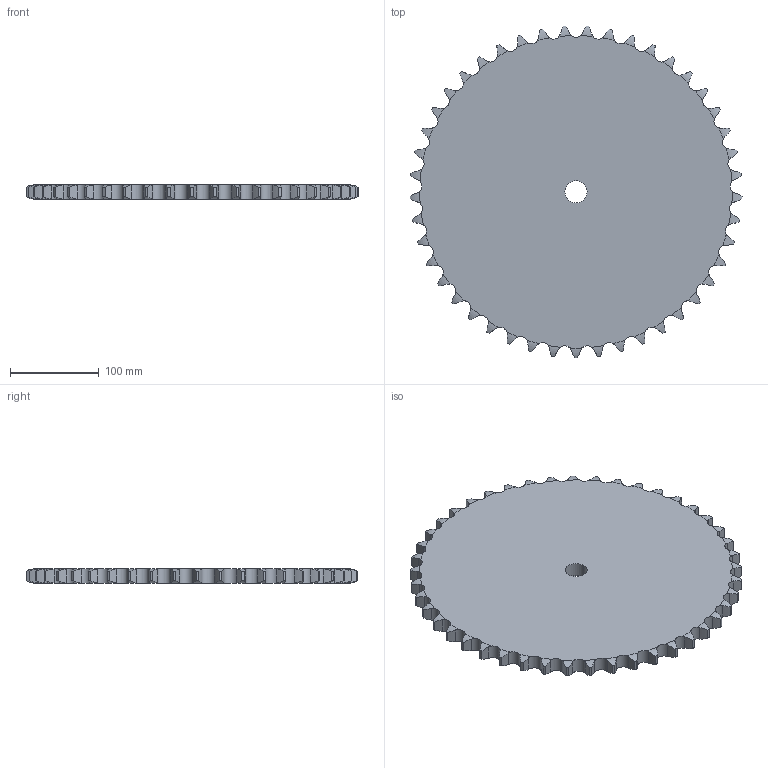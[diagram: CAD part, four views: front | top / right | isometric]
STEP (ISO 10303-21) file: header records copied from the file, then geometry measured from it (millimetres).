
FILE_DESCRIPTION((''),'2;1');
FILE_NAME('500-501-0045_PRT','2021-02-12T',('Brieden'),('Brieden'),'PRO/ENGINEER BY PARAMETRIC TECHNOLOGY CORPORATION, 2010160','PRO/ENGINEER BY PARAMETRIC TECHNOLOGY CORPORATION, 2010160','');
FILE_SCHEMA(('AUTOMOTIVE_DESIGN { 1 0 10303 214 1 1 1 1 }'));
Length unit declared in the file: millimetre
Products named in the file (1): 500-501-0045_PRT
Bounding box: 374.41 x 374.18 x 16.2 mm (x, y, z)
Volume: 1620629.6 mm3; surface area: 228551.1 mm2
Topology: 1 solids, 1 shells, 274 faces, 816 edges, 544 vertices
Faces by surface type: cylinder 182, torus 90, plane 2
Entity records: 13928 total; most frequent: CARTESIAN_POINT 4489, ORIENTED_EDGE 1632, DIRECTION 1278, PRESENTATION_STYLE_ASSIGNMENT 817, STYLED_ITEM 817, CURVE_STYLE 816, EDGE_CURVE 816, AXIS2_PLACEMENT_3D 548
